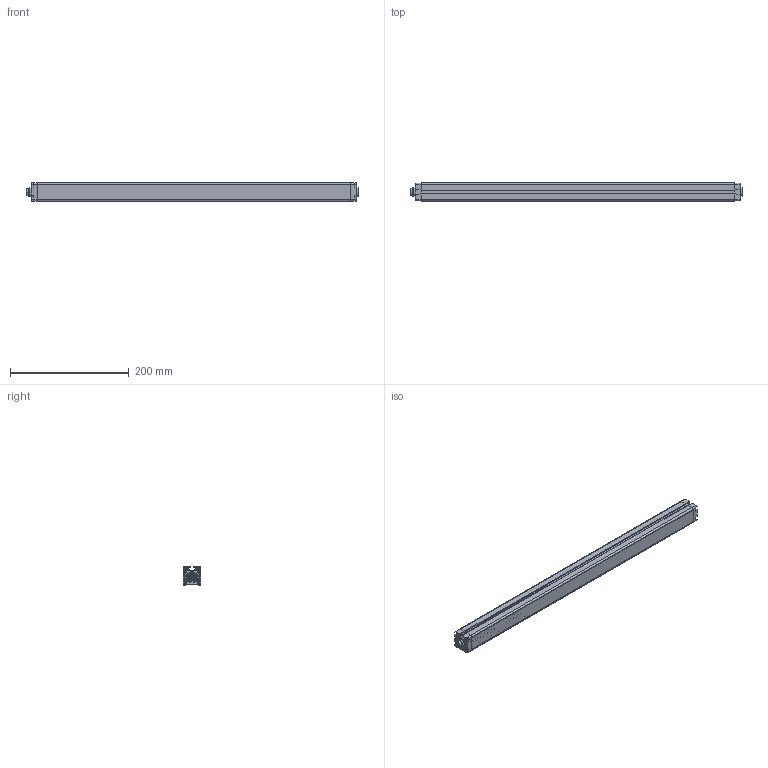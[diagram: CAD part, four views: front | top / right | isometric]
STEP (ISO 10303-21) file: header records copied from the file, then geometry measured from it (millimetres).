
FILE_DESCRIPTION(/* description */ (''),/* implementation_level */ '2;1');
FILE_NAME(/* name */ 'THS5-104.stp',/* time_stamp */ '2024-09-18T10:31:12+08:00',/* author */ (''),/* organization */ (''),/* preprocessor_version */ 'ST-DEVELOPER v16',/* originating_system */ 'SIEMENS PLM Software NX 11.0',/* authorisation */ '');
FILE_SCHEMA (('AP203_CONFIGURATION_CONTROLLED_3D_DESIGN_OF_MECHANICAL_PARTS_AND_ASSEMBLIES_MIM_LF { 1 0 10303 403 2 1 2}'));
Length unit declared in the file: millimetre
Products named in the file (9): 16960; 14961; 12962; 13963; 102964; 101965; 11966; ASM0002_ASM967; THS5-64_stp
Assembly tree (8 placements, depth 3):
  THS5-64_stp
    11966
    101965
    102964
    13963
    12962
    ASM0002_ASM967
      14961
      16960
Bounding box: 559.5 x 30.3 x 31.3 mm (x, y, z)
Volume: 183145.7 mm3; surface area: 209800.9 mm2
Topology: 5 solids, 7 shells, 540 faces, 1505 edges, 993 vertices
Faces by surface type: plane 382, cylinder 144, cone 14
Entity records: 18340 total; most frequent: CARTESIAN_POINT 3095, ORIENTED_EDGE 3006, DIRECTION 2911, EDGE_CURVE 1505, LINE 1173, VECTOR 1173, VERTEX_POINT 993, AXIS2_PLACEMENT_3D 869
